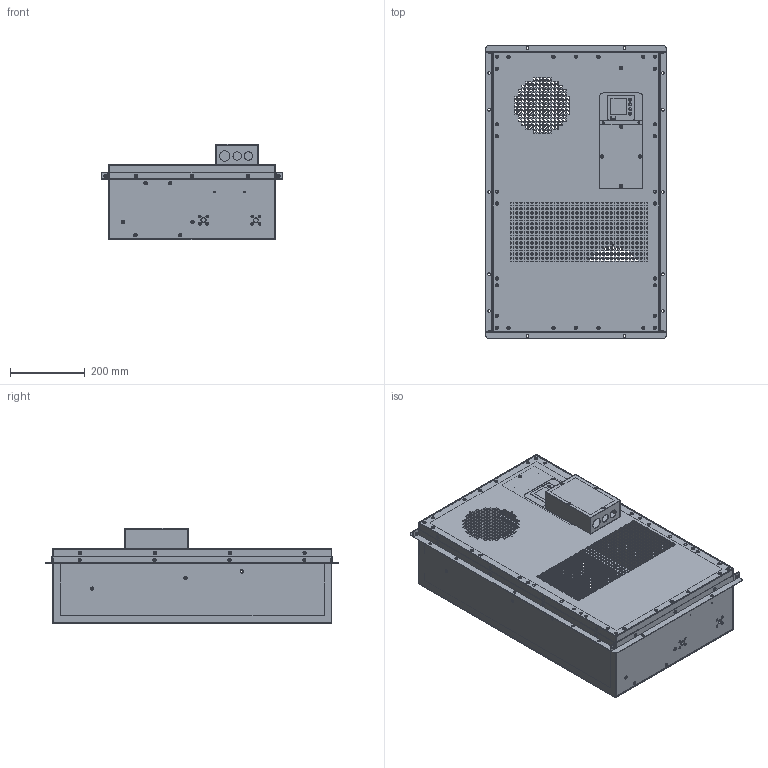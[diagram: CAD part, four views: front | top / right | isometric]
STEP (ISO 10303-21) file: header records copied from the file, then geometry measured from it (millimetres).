
FILE_DESCRIPTION (( 'STEP AP203' ), '1' );
FILE_NAME ('3D model, IQ5000BDC.STEP', '2021-09-17T17:45:16', ( '' ), ( '' ), 'SwSTEP 2.0', 'SolidWorks 2019', '' );
FILE_SCHEMA (( 'CONFIG_CONTROL_DESIGN' ));
Products named in the file (10): KZH_1; AZT1_1; DYXBHK_1; Faceplate; 3D model, IQ5000BDC; WK_1; DYXBHKG_1; AZT2_1; WK1_1; DZ_1
Assembly tree (11 placements, depth 2):
  3D model, IQ5000BDC
    DZ_1
    WK_1
    WK1_1
    AZT2_1  x2
    AZT1_1  x2
    KZH_1
    DYXBHK_1
    DYXBHKG_1
    Faceplate
Bounding box: 483 x 783 x 254.7 mm (x, y, z)
Volume: 1902952.6 mm3; surface area: 3082341.3 mm2
Topology: 11 solids, 11 shells, 10226 faces, 30198 edges, 20130 vertices
Faces by surface type: plane 9479, cylinder 524, cone 156, bspline 67
Entity records: 347179 total; most frequent: CARTESIAN_POINT 64248, ORIENTED_EDGE 59964, DIRECTION 51310, EDGE_CURVE 29982, LINE 28576, VECTOR 28576, VERTEX_POINT 19986, EDGE_LOOP 15166
